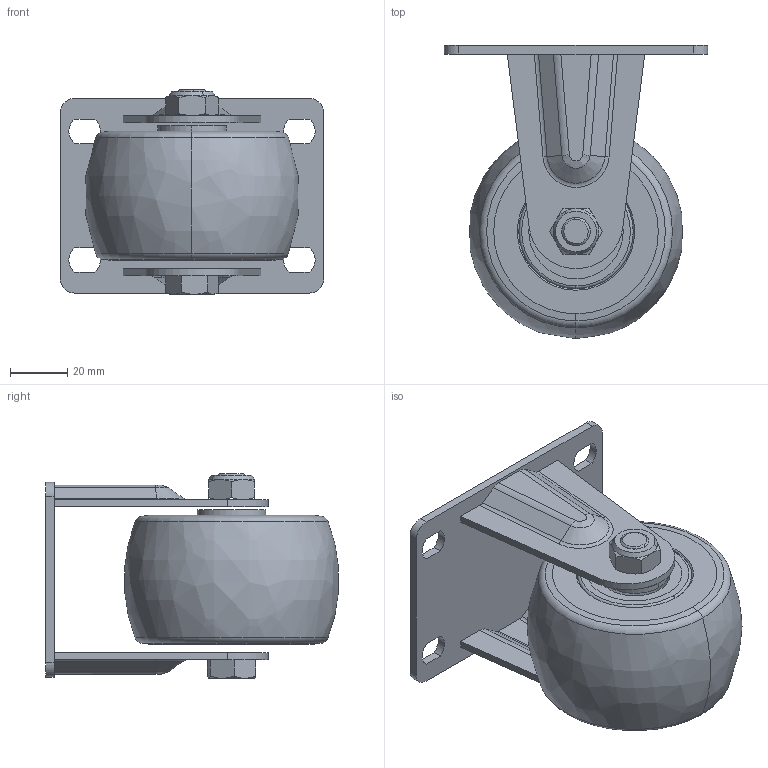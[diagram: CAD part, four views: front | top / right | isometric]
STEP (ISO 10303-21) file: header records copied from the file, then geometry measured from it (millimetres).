
FILE_DESCRIPTION((''),'2;1');
FILE_NAME('PRT0002','2025-07-11T16:47:06',('Administrator'),(''),'CREO PARAMETRIC BY PTC INC, 2022124','CREO PARAMETRIC BY PTC INC, 2022124','');
FILE_SCHEMA(('AUTOMOTIVE_DESIGN { 1 0 10303 214 1 1 1 1 }'));
Length unit declared in the file: millimetre
Products named in the file (1): PRT0002
Bounding box: 92 x 102.35 x 71.4 mm (x, y, z)
Surface area: 42866.8 mm2 (no closed solid volume)
Topology: 0 solids, 12 shells, 131 faces, 352 edges, 232 vertices
Faces by surface type: plane 55, cylinder 32, cone 28, torus 12, bspline 4
Entity records: 5405 total; most frequent: CARTESIAN_POINT 1115, DIRECTION 721, ORIENTED_EDGE 602, EDGE_CURVE 352, AXIS2_PLACEMENT_3D 281, VERTEX_POINT 232, VECTOR 156, LINE 156
